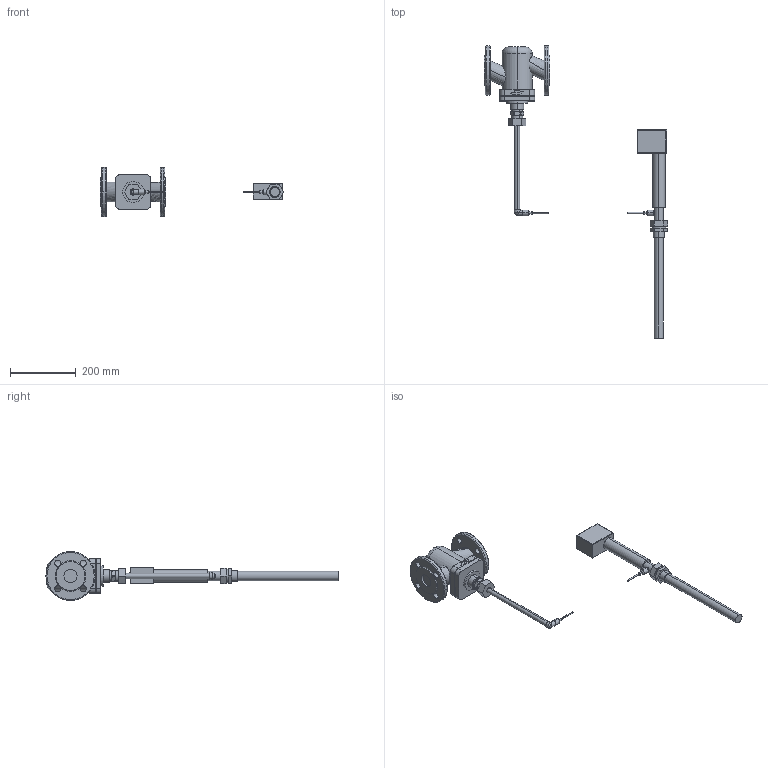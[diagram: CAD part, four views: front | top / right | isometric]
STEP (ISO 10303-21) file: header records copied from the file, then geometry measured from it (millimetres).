
FILE_DESCRIPTION (( 'STEP AP203' ), '1' );
FILE_NAME ('2111(2710)_SS_DIN_040_016_EN-JL1040_B1_std_2231_150_TL325.STEP', '2010-03-09T11:25:31', ( '' ), ( '' ), 'SwSTEP 2.0', 'SolidWorks 2006303', '' );
FILE_SCHEMA (( 'CONFIG_CONTROL_DESIGN' ));
Length unit declared in the file: millimetre
Products named in the file (1): 2111(2710)_SS_DIN_040_016_EN-JL1040_B1_std_2231_150_TL325
Bounding box: 559.18 x 891.6 x 150 mm (x, y, z)
Surface area: 294569 mm2 (no closed solid volume)
Topology: 0 solids, 13 shells, 205 faces, 801 edges, 621 vertices
Faces by surface type: plane 92, cylinder 72, torus 21, bspline 12, cone 7, sphere 1
Entity records: 11933 total; most frequent: CARTESIAN_POINT 5525, ORIENTED_EDGE 1234, DIRECTION 1175, EDGE_CURVE 801, VERTEX_POINT 621, AXIS2_PLACEMENT_3D 412, VECTOR 351, LINE 351
